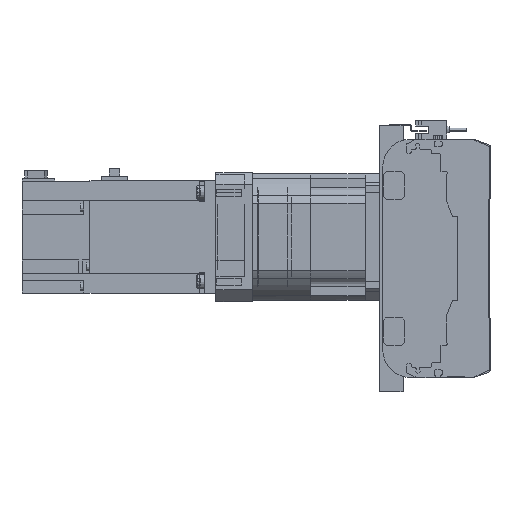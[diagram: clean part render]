
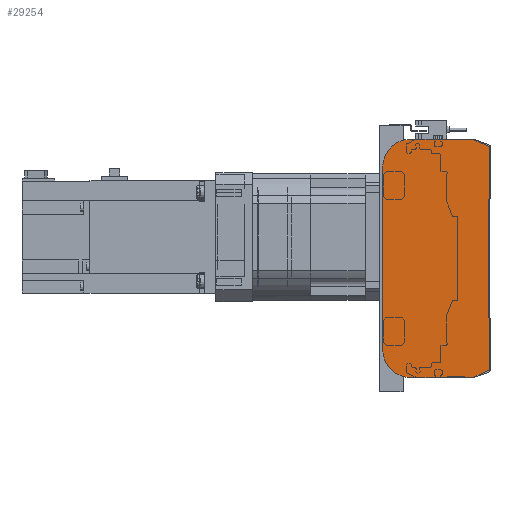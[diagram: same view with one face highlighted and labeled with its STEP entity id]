
A CAD part, left-side view. The second image highlights one B-rep face of the part: STEP entity #29254.
In plain terms, the highlighted planar face has unit normal (-1, 0, 0).
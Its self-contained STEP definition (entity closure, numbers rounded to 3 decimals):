
#2354=CIRCLE('',#31985,2.);
#2355=CIRCLE('',#31988,2.);
#2356=CIRCLE('',#31991,20.);
#2357=CIRCLE('',#31994,20.);
#8347=ORIENTED_EDGE('',*,*,#14181,.F.);
#8348=ORIENTED_EDGE('',*,*,#14259,.F.);
#8349=ORIENTED_EDGE('',*,*,#14257,.F.);
#8350=ORIENTED_EDGE('',*,*,#14255,.F.);
#8351=ORIENTED_EDGE('',*,*,#13913,.F.);
#8352=ORIENTED_EDGE('',*,*,#14254,.F.);
#8353=ORIENTED_EDGE('',*,*,#14252,.F.);
#8354=ORIENTED_EDGE('',*,*,#14250,.F.);
#8355=ORIENTED_EDGE('',*,*,#14248,.F.);
#8356=ORIENTED_EDGE('',*,*,#14246,.F.);
#13913=EDGE_CURVE('',#17149,#17150,#19601,.T.);
#14181=EDGE_CURVE('',#17221,#17222,#19715,.T.);
#14246=EDGE_CURVE('',#17222,#17263,#19760,.T.);
#14248=EDGE_CURVE('',#17263,#17264,#2354,.T.);
#14250=EDGE_CURVE('',#17264,#17265,#19763,.T.);
#14252=EDGE_CURVE('',#17265,#17266,#2355,.T.);
#14254=EDGE_CURVE('',#17266,#17149,#19766,.T.);
#14255=EDGE_CURVE('',#17150,#17267,#2356,.T.);
#14257=EDGE_CURVE('',#17267,#17268,#19768,.T.);
#14259=EDGE_CURVE('',#17268,#17221,#2357,.T.);
#17149=VERTEX_POINT('',#49761);
#17150=VERTEX_POINT('',#49763);
#17221=VERTEX_POINT('',#50154);
#17222=VERTEX_POINT('',#50156);
#17263=VERTEX_POINT('',#50286);
#17264=VERTEX_POINT('',#50290);
#17265=VERTEX_POINT('',#50294);
#17266=VERTEX_POINT('',#50298);
#17267=VERTEX_POINT('',#50304);
#17268=VERTEX_POINT('',#50308);
#19601=LINE('',#49762,#21944);
#19715=LINE('',#50155,#22058);
#19760=LINE('',#50285,#22103);
#19763=LINE('',#50293,#22106);
#19766=LINE('',#50301,#22109);
#19768=LINE('',#50307,#22111);
#21944=VECTOR('',#38669,1000.);
#22058=VECTOR('',#39197,1000.);
#22103=VECTOR('',#39330,1000.);
#22106=VECTOR('',#39339,1000.);
#22109=VECTOR('',#39348,1000.);
#22111=VECTOR('',#39356,1000.);
#23952=EDGE_LOOP('',(#8347,#8348,#8349,#8350,#8351,#8352,#8353,#8354,#8355,
#8356));
#26375=FACE_BOUND('',#23952,.T.);
#27846=PLANE('',#31996);
#29254=ADVANCED_FACE('',(#26375),#27846,.F.);
#31985=AXIS2_PLACEMENT_3D('',#50289,#39334,#39335);
#31988=AXIS2_PLACEMENT_3D('',#50297,#39343,#39344);
#31991=AXIS2_PLACEMENT_3D('',#50303,#39351,#39352);
#31994=AXIS2_PLACEMENT_3D('',#50311,#39360,#39361);
#31996=AXIS2_PLACEMENT_3D('',#50313,#39364,#39365);
#38669=DIRECTION('',(0.,1.,0.));
#39197=DIRECTION('',(0.,-1.,0.));
#39330=DIRECTION('',(0.,-0.913,-0.408));
#39334=DIRECTION('',(1.,0.,0.));
#39335=DIRECTION('',(0.,0.,-1.));
#39339=DIRECTION('',(0.,0.,-1.));
#39343=DIRECTION('',(1.,0.,0.));
#39344=DIRECTION('',(0.,0.,-1.));
#39348=DIRECTION('',(0.,0.913,-0.408));
#39351=DIRECTION('',(1.,0.,0.));
#39352=DIRECTION('',(0.,0.,-1.));
#39356=DIRECTION('',(0.,0.,1.));
#39360=DIRECTION('',(1.,0.,0.));
#39361=DIRECTION('',(0.,0.,-1.));
#39364=DIRECTION('',(1.,0.,0.));
#39365=DIRECTION('',(0.,0.,-1.));
#49761=CARTESIAN_POINT('',(0.,12.33,-85.));
#49762=CARTESIAN_POINT('',(0.,12.33,-85.));
#49763=CARTESIAN_POINT('',(0.,56.5,-85.));
#50154=CARTESIAN_POINT('',(0.,56.5,85.));
#50155=CARTESIAN_POINT('',(0.,56.5,85.));
#50156=CARTESIAN_POINT('',(0.,12.33,85.));
#50285=CARTESIAN_POINT('',(0.,12.33,85.));
#50286=CARTESIAN_POINT('',(0.,1.684,80.239));
#50289=CARTESIAN_POINT('',(0.,2.5,78.413));
#50290=CARTESIAN_POINT('',(0.,0.5,78.413));
#50293=CARTESIAN_POINT('',(0.,0.5,78.413));
#50294=CARTESIAN_POINT('',(0.,0.5,-78.413));
#50297=CARTESIAN_POINT('',(0.,2.5,-78.413));
#50298=CARTESIAN_POINT('',(0.,1.684,-80.239));
#50301=CARTESIAN_POINT('',(0.,1.684,-80.239));
#50303=CARTESIAN_POINT('',(0.,56.5,-65.));
#50304=CARTESIAN_POINT('',(0.,76.5,-65.));
#50307=CARTESIAN_POINT('',(0.,76.5,-65.));
#50308=CARTESIAN_POINT('',(0.,76.5,65.));
#50311=CARTESIAN_POINT('',(0.,56.5,65.));
#50313=CARTESIAN_POINT('',(0.,2.5,78.413));
